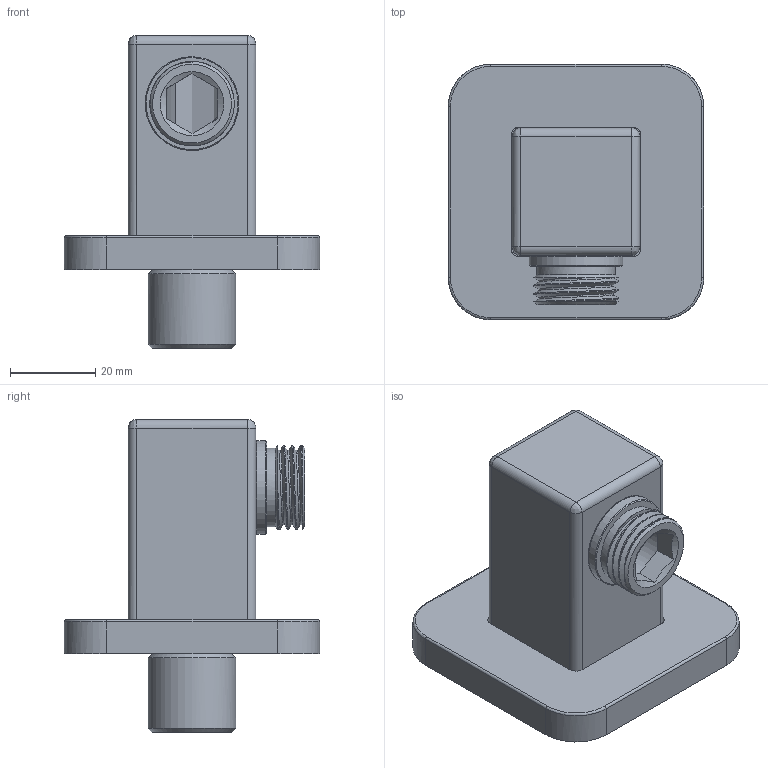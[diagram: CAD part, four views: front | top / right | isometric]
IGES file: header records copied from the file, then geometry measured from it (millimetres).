
Global section: file name: 68a756c4-39a3-4d50-8bf4-c15ec5200b7f; native system: unknown; preprocessor: unknown; author: unknown; organization: unknown; date: 20191214.155222; units: millimetre
Bounding box: 60 x 60 x 73.5 mm (x, y, z)
Volume: 42227.7 mm3; surface area: 31390.5 mm2
Topology: 11 solids, 11 shells, 239 faces, 624 edges, 424 vertices
Faces by surface type: bspline 239
